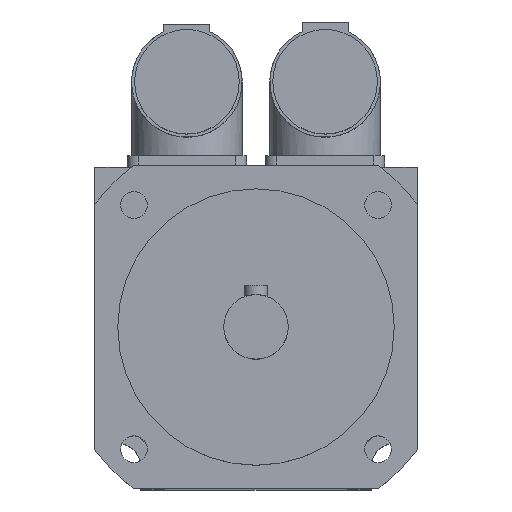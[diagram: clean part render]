
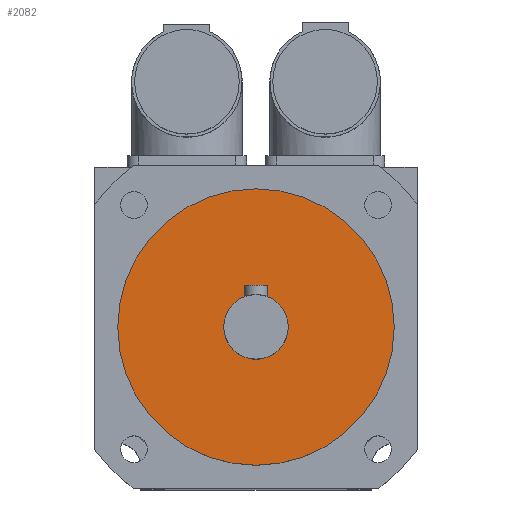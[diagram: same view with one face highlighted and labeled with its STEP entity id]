
A CAD part, top view. The second image highlights one B-rep face of the part: STEP entity #2082.
In plain terms, the highlighted planar face has unit normal (0, 0, 1).
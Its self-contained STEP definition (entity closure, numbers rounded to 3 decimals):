
#36=FACE_BOUND('',#359,.T.);
#61=CIRCLE('',#2206,7.);
#62=CIRCLE('',#2209,30.);
#234=FACE_OUTER_BOUND('',#358,.T.);
#358=EDGE_LOOP('',(#1420));
#359=EDGE_LOOP('',(#1421));
#878=VERTEX_POINT('',#3179);
#879=VERTEX_POINT('',#3183);
#1092=EDGE_CURVE('',#878,#878,#61,.T.);
#1093=EDGE_CURVE('',#879,#879,#62,.T.);
#1420=ORIENTED_EDGE('',*,*,#1093,.T.);
#1421=ORIENTED_EDGE('',*,*,#1092,.T.);
#2019=PLANE('',#2211);
#2082=ADVANCED_FACE('',(#234,#36),#2019,.T.);
#2206=AXIS2_PLACEMENT_3D('',#3180,#2468,#2469);
#2209=AXIS2_PLACEMENT_3D('',#3184,#2474,#2475);
#2211=AXIS2_PLACEMENT_3D('',#3187,#2478,#2479);
#2468=DIRECTION('center_axis',(0.,0.,-1.));
#2469=DIRECTION('ref_axis',(-1.,0.,0.));
#2474=DIRECTION('center_axis',(0.,0.,1.));
#2475=DIRECTION('ref_axis',(-1.,0.,0.));
#2478=DIRECTION('center_axis',(0.,0.,1.));
#2479=DIRECTION('ref_axis',(1.,0.,0.));
#3179=CARTESIAN_POINT('',(7.,0.,179.));
#3180=CARTESIAN_POINT('Origin',(0.,0.,179.));
#3183=CARTESIAN_POINT('',(30.,0.,179.));
#3184=CARTESIAN_POINT('Origin',(0.,0.,179.));
#3187=CARTESIAN_POINT('Origin',(0.,0.,
179.));
